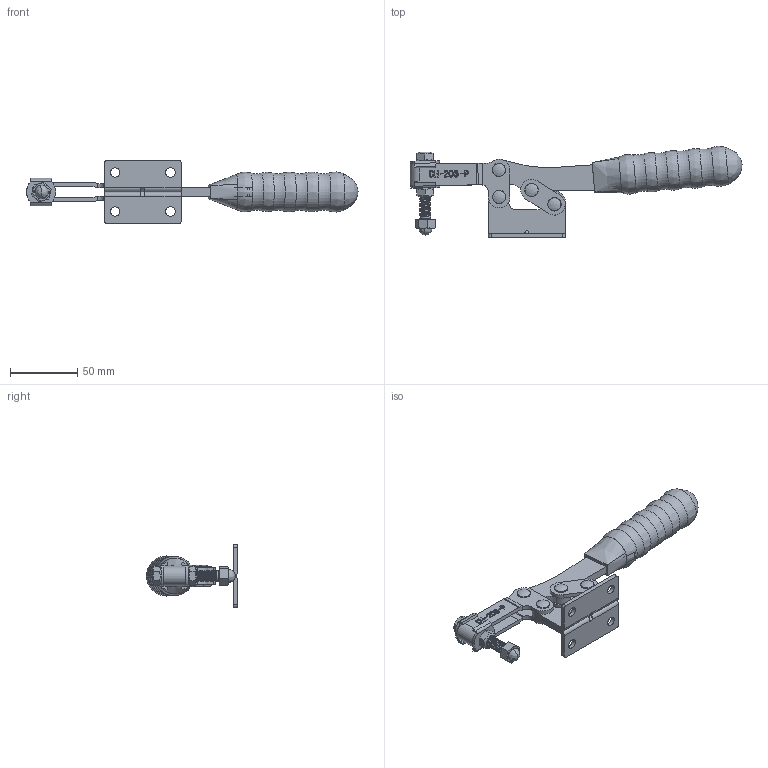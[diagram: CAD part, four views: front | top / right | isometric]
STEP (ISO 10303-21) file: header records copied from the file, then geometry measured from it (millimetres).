
FILE_DESCRIPTION(/* description */ ('STEP AP203'),/* implementation_level */ '2;1');
FILE_NAME(/* name */ 'E:\STRONA\Horizontal toggle clamp\CH-203-P\CH-203-P_ZAMKNIETY.stp',/* time_stamp */ '2019-01-15T13:37:30+01:00',/* author */ ('Admin'),/* organization */ ('Î¢ÈíÖÐ¹ú'),/* preprocessor_version */ 'ST-DEVELOPER v17.2',/* originating_system */ 'Autodesk Inventor 2019',/* authorisation */ '');
FILE_SCHEMA (('AUTOMOTIVE_DESIGN { 1 0 10303 214 3 1 1 }'));
Length unit declared in the file: millimetre
Products named in the file (11): CH-203-P_ZAMKNIETY; 203-P-01; 203-P-02; FW516; 56212-02; 085012; 02; 203-P-03; 203-P-07; 203-F-04; 225-D-06
Assembly tree (16 placements, depth 3):
  CH-203-P_ZAMKNIETY
    203-P-01
    203-P-02
    225-D-06  x4
    FW516  x2
    56212-02  x2
    085012
    02
      203-P-03
      203-P-07
    203-F-04  x2
Bounding box: 246.42 x 67.95 x 47 mm (x, y, z)
Volume: 105428 mm3; surface area: 53282.7 mm2
Topology: 16 solids, 18 shells, 658 faces, 1814 edges, 1226 vertices
Faces by surface type: plane 285, bspline 190, cylinder 142, torus 21, cone 16, sphere 4
Full cylindrical faces by diameter (mm): 2.8 x1, 4.4 x1, 4.833 x4, 6.3 x10, 6.4 x14, 7 x4, 8 x37, 8.1 x2, 10 x8
Entity records: 40925 total; most frequent: CARTESIAN_POINT 26945, ORIENTED_EDGE 3188, DIRECTION 2201, EDGE_CURVE 1594, VERTEX_POINT 1075, LINE 865, VECTOR 865, AXIS2_PLACEMENT_3D 668
